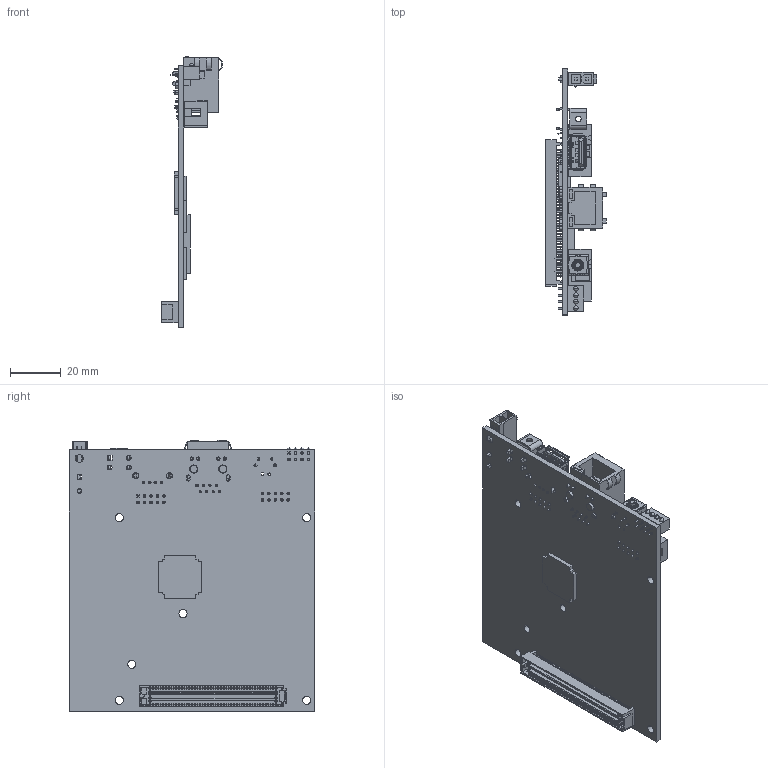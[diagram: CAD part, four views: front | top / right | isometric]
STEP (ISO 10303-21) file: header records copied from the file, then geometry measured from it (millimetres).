
FILE_DESCRIPTION((''),'2;1');
FILE_NAME('CU_CCA_SBRIO-9606','2011-11-10T',('jpfaff'),(''),'PRO/ENGINEER BY PARAMETRIC TECHNOLOGY CORPORATION, 2010230','PRO/ENGINEER BY PARAMETRIC TECHNOLOGY CORPORATION, 2010230','');
FILE_SCHEMA(('CONFIG_CONTROL_DESIGN'));
Products named in the file (1): CU_CCA_SBRIO-9606
Bounding box: 23.95 x 96.52 x 106.61 mm (x, y, z)
Volume: 31766.7 mm3; surface area: 34092.2 mm2
Topology: 4 solids, 4 shells, 5494 faces, 17431 edges, 11249 vertices
Faces by surface type: plane 4370, cylinder 1027, bspline 56, sphere 26, torus 9, cone 6
Entity records: 194241 total; most frequent: CARTESIAN_POINT 37812, ORIENTED_EDGE 34798, DIRECTION 30090, EDGE_CURVE 17399, VECTOR 15004, LINE 15004, VERTEX_POINT 11248, AXIS2_PLACEMENT_3D 7543
